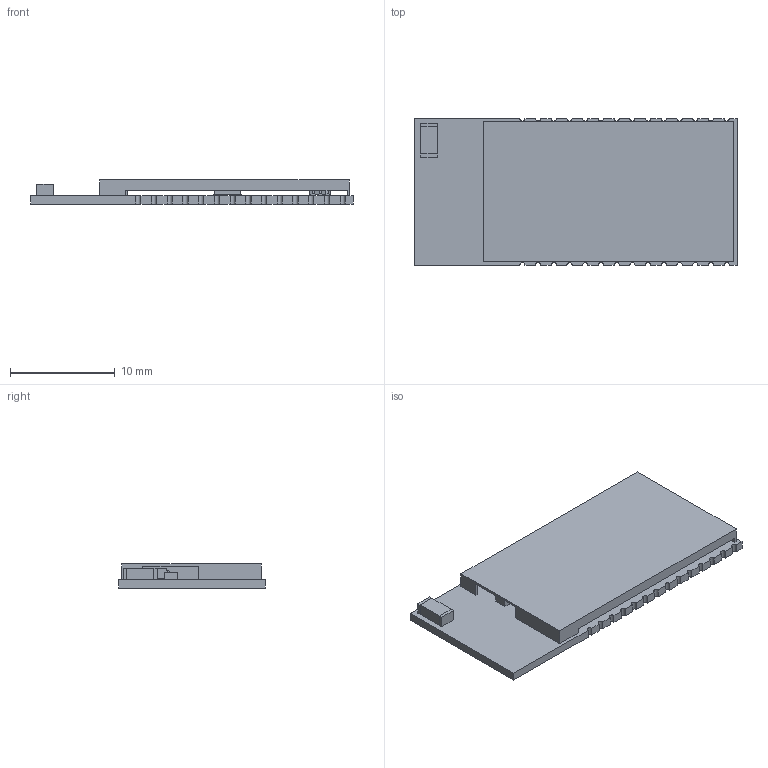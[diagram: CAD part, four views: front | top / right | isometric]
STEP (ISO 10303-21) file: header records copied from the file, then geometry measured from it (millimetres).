
FILE_DESCRIPTION(('FreeCAD Model'),'2;1');
FILE_NAME('Open CASCADE Shape Model','2022-09-20T22:11:37',('Author'),( ''),'Open CASCADE STEP processor 7.4','FreeCAD','Unknown');
FILE_SCHEMA(('AUTOMOTIVE_DESIGN { 1 0 10303 214 1 1 1 1 }'));
Length unit declared in the file: millimetre
Products named in the file (12): FMB110; Board_Geoms_a675; Pcb_a675; Step_Models_a675; Top_a675; SH1_FMB110ShieldingCase001001_(Solid)_6329FB17; Y1_ASSEMBLY_632754E6; Body; Pins; U2_shapr3d_export_2021_08_30_22h57m001001_63275439; Q8_PUMD9,115_63278AB7; ANT1_32_16_11_03_632B00CA
Assembly tree (11 placements, depth 5):
  FMB110
    Board_Geoms_a675
      Pcb_a675
    Step_Models_a675
      Top_a675
        SH1_FMB110ShieldingCase001001_(Solid)_6329FB17
        Y1_ASSEMBLY_632754E6
          Body
          Pins
        U2_shapr3d_export_2021_08_30_22h57m001001_63275439
        Q8_PUMD9,115_63278AB7
        ANT1_32_16_11_03_632B00CA
Bounding box: 30.78 x 14.02 x 2.3 mm (x, y, z)
Volume: 431 mm3; surface area: 1797 mm2
Topology: 17 solids, 28 shells, 250 faces, 1308 edges, 3048 vertices
Faces by surface type: plane 182, cylinder 68
Entity records: 17451 total; most frequent: CARTESIAN_POINT 4618, DIRECTION 2072, ORIENTED_EDGE 1272, LINE 1068, VECTOR 1068, EDGE_CURVE 660, GEOMETRIC_CURVE_SET 651, TRIMMED_CURVE 648
